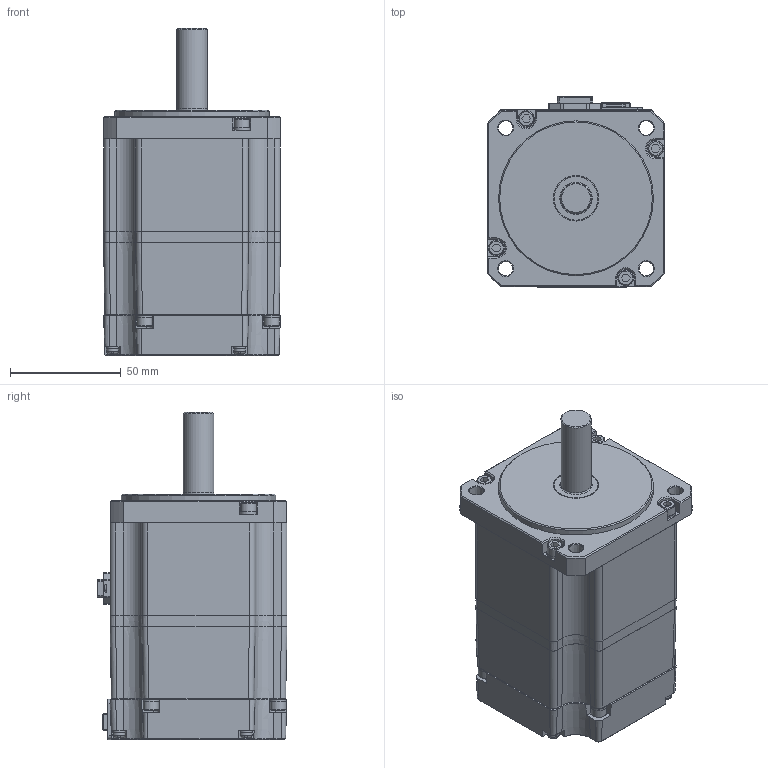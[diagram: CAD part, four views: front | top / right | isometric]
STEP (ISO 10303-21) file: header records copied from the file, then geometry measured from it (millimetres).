
FILE_DESCRIPTION (( 'STEP AP214' ), '1' );
FILE_NAME ('EM08GA004G01_Out Line(APM-EC04AM3N2).STEP', '2022-11-10T03:18:42', ( '' ), ( '' ), 'SwSTEP 2.0', 'SolidWorks 2021', '' );
FILE_SCHEMA (( 'AUTOMOTIVE_DESIGN' ));
Length unit declared in the file: millimetre
Products named in the file (1): EM08GA004G01_Out Line(APM-EC04AM3N2)
Bounding box: 80 x 85.9 x 148 mm (x, y, z)
Volume: 622060.8 mm3; surface area: 107907.8 mm2
Topology: 34 solids, 34 shells, 1569 faces, 3923 edges, 2490 vertices
Faces by surface type: plane 1118, cylinder 233, cone 144, torus 31, bspline 29, sphere 14
Full cylindrical faces by diameter (mm): 1.589 x1, 1.6 x9, 2 x2, 2.1 x2, 2.5 x8, 3 x8, 3.3 x8, 4 x12, 4.5 x8, 5.4 x8, 7 x8, 7.2 x8, 14 x1, 19.8 x1, 20.6 x1, 70 x1
Entity records: 64167 total; most frequent: CARTESIAN_POINT 10171, ORIENTED_EDGE 7432, DIRECTION 7149, EDGE_CURVE 3716, VECTOR 2749, LINE 2749, VERTEX_POINT 2443, AXIS2_PLACEMENT_3D 2200
